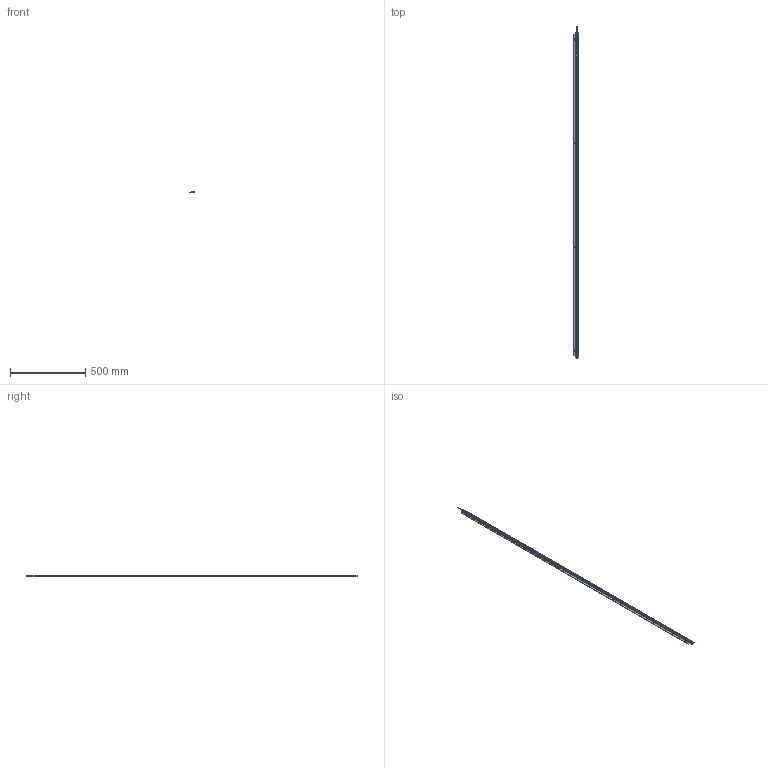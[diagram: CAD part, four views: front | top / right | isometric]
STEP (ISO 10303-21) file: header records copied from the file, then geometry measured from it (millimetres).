
FILE_DESCRIPTION (( 'STEP AP214' ), '1' );
FILE_NAME ('ILGA-L-K1-2160mm.STEP', '2026-04-24T23:07:54', ( '' ), ( '' ), 'SwSTEP 2.0', 'SolidWorks 2025', '' );
FILE_SCHEMA (( 'AUTOMOTIVE_DESIGN' ));
Length unit declared in the file: millimetre
Products named in the file (1): ILGA-L-K1-2160mm
Bounding box: 35 x 2200 x 10.7 mm (x, y, z)
Volume: 223952.6 mm3; surface area: 332453.7 mm2
Topology: 9 solids, 9 shells, 680 faces, 1768 edges, 1080 vertices
Faces by surface type: plane 293, cylinder 245, cone 60, torus 42, bspline 24, sphere 16
Entity records: 28575 total; most frequent: CARTESIAN_POINT 4429, DIRECTION 3606, ORIENTED_EDGE 3448, EDGE_CURVE 1724, AXIS2_PLACEMENT_3D 1345, VERTEX_POINT 1080, LINE 916, VECTOR 916
